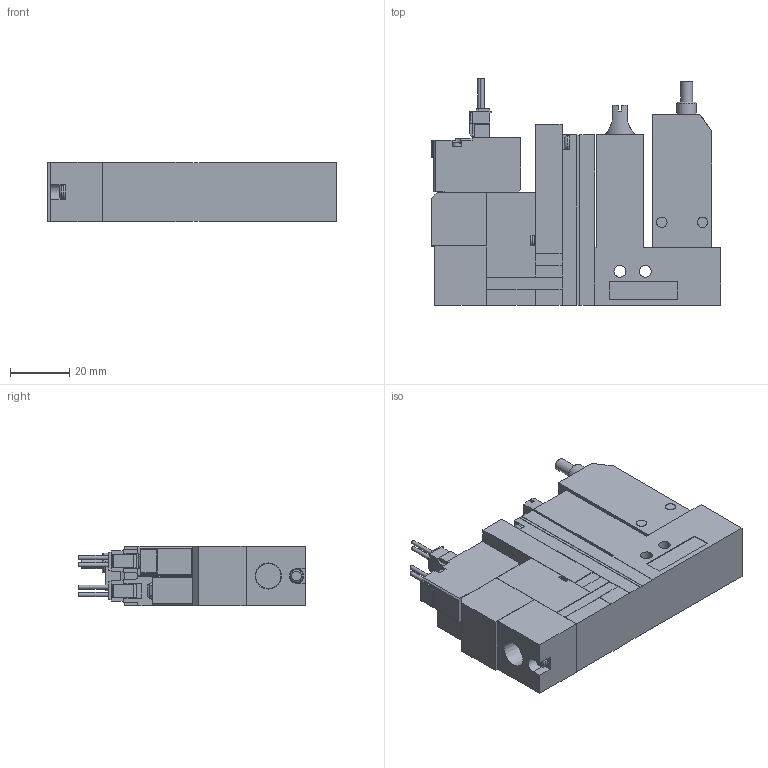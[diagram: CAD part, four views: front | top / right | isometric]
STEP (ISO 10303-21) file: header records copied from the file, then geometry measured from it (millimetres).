
FILE_DESCRIPTION(('STEP AP203'),'1');
FILE_NAME('ABS_ABPLC5ALR.stp','2025-02-17T00:06:23',(' '),(' '),'Spatial InterOp 3D',' ',' ');
FILE_SCHEMA(('CONFIG_CONTROL_DESIGN'));
Length unit declared in the file: millimetre
Products named in the file (5): BMC22S※※※※ABS_ABPLC5ALR; Solenoid valve A; Pressure sensor ABSLC; Unit LC; Base SR10R
Assembly tree (4 placements, depth 2):
  BMC22S※※※※ABS_ABPLC5ALR
    Solenoid valve A
    Pressure sensor ABSLC
    Unit LC
    Base SR10R
Bounding box: 97.6 x 76.45 x 20 mm (x, y, z)
Volume: 102245.3 mm3; surface area: 26441 mm2
Topology: 4 solids, 4 shells, 414 faces, 1099 edges, 721 vertices
Faces by surface type: plane 356, cylinder 46, torus 6, cone 6
Full cylindrical faces by diameter (mm): 1.4 x4, 2.5 x1, 3 x4, 3.5 x6, 3.6 x1, 4 x3, 4.134 x1, 6 x1, 6.5 x1
Entity records: 12812 total; most frequent: CARTESIAN_POINT 2340, ORIENTED_EDGE 2114, DIRECTION 2020, EDGE_CURVE 1057, LINE 920, VECTOR 920, VERTEX_POINT 714, AXIS2_PLACEMENT_3D 550
